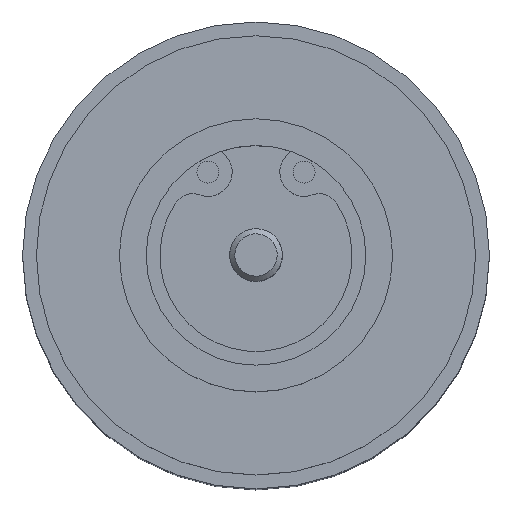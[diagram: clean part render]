
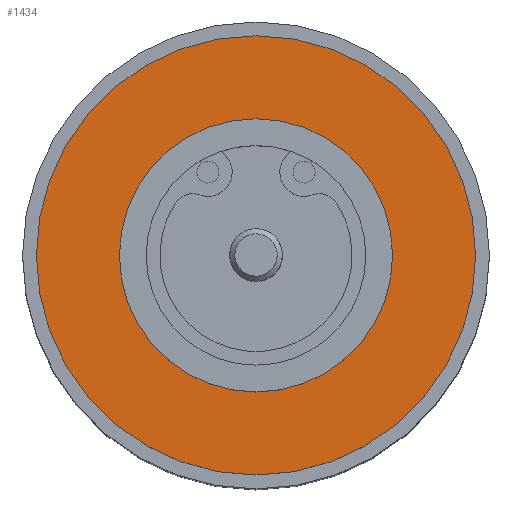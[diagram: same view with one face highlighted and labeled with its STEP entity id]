
A CAD part, top view. The second image highlights one B-rep face of the part: STEP entity #1434.
In plain terms, the highlighted planar face has unit normal (0, 0, 1).
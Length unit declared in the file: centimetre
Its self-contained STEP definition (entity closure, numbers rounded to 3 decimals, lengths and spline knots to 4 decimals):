
#853=VERTEX_POINT('',#1946);
#854=VERTEX_POINT('',#1949);
#919=CIRCLE('',#1515,1.27);
#920=CIRCLE('',#1517,0.79);
#985=EDGE_CURVE('',#853,#853,#919,.T.);
#986=EDGE_CURVE('',#854,#854,#920,.T.);
#1076=ORIENTED_EDGE('',*,*,#986,.F.);
#1077=ORIENTED_EDGE('',*,*,#985,.T.);
#1220=EDGE_LOOP('',(#1076));
#1221=EDGE_LOOP('',(#1077));
#1336=FACE_BOUND('',#1220,.T.);
#1337=FACE_BOUND('',#1221,.T.);
#1434=ADVANCED_FACE('',(#1336,#1337),#2111,.T.);
#1515=AXIS2_PLACEMENT_3D('',#1945,#1688,#1689);
#1516=AXIS2_PLACEMENT_3D('',#1947,#1690,$);
#1517=AXIS2_PLACEMENT_3D('',#1948,#1691,#1692);
#1688=DIRECTION('',(0.,0.,1.));
#1689=DIRECTION('',(0.,1.27,0.));
#1690=DIRECTION('',(0.,0.,1.));
#1691=DIRECTION('',(0.,0.,1.));
#1692=DIRECTION('',(0.,0.79,0.));
#1945=CARTESIAN_POINT('',(0.,0.,-0.157));
#1946=CARTESIAN_POINT('',(0.,1.27,-0.157));
#1947=CARTESIAN_POINT('',(0.,1.03,-0.157));
#1948=CARTESIAN_POINT('',(0.,0.,-0.157));
#1949=CARTESIAN_POINT('',(0.,0.79,-0.157));
#2111=PLANE('',#1516);
